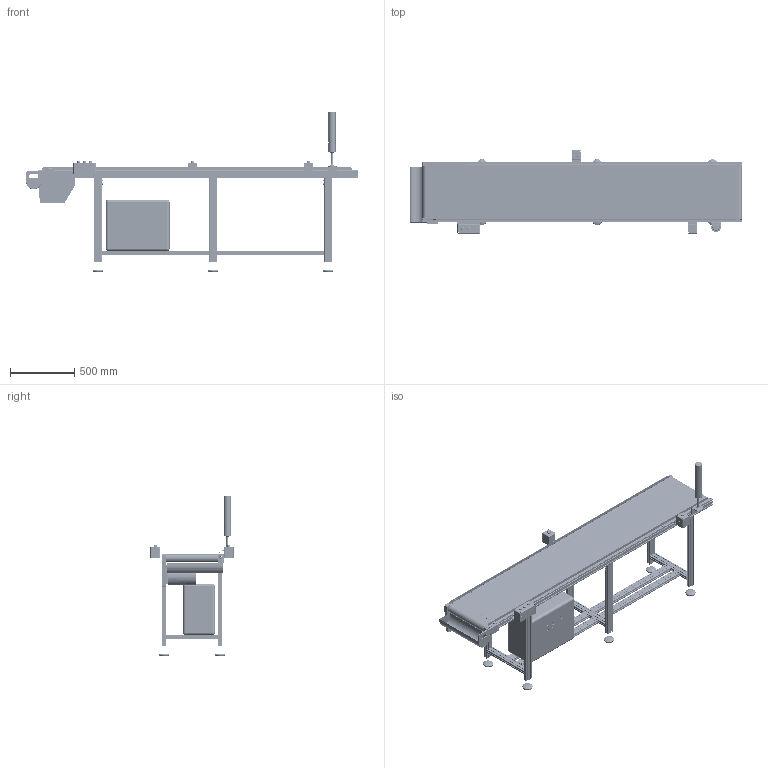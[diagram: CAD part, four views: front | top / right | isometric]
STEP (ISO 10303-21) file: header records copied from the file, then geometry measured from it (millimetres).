
FILE_DESCRIPTION(/* description */ (''),/* implementation_level */ '2;1');
FILE_NAME(/* name */ 'beltconveyor_a052_w400_l2500.stp',/* time_stamp */ '2024-12-22T17:50:04+08:00',/* author */ (''),/* organization */ (''),/* preprocessor_version */ 'ST-DEVELOPER v16.7',/* originating_system */ 'SIEMENS PLM Software NX 12.0',/* authorisation */ '');
FILE_SCHEMA (('AUTOMOTIVE_DESIGN { 1 0 10303 214 3 1 1 1 }'));
Products named in the file (53): L=2500皮带托板一; L=2500边框型材一; L=2500皮带托板二; L=2500六角螺母M6_GB_FASTENER_NUT_SNC1 M
6-C; L=2500平垫圈d6_GB_FASTENER_WASHER_SMWC 6; L=2500边框型材二; L=25002.21.08.M6; L=2500内六角圆柱头螺栓M6X10_GB_FASTENER_SCREW
S_HSHCS M6X10-C; L=25001.11.30.030060.06.L1380; L=25001.11.30.030060.06.L305; L=25005.32.30.3060; L=25001.11.30.030060.06.L610; L=25005.21.80.12.130; L=25003.21.30.6060.STA; L=25003.21.30.3030.STA; L=25003.21.30.3060.STA; L=2500托辊轴; L=2500深沟球62800_Rolling bearings 61900 
GB 276-94; L=2500内六角顶丝M8X10_GB_FASTENER_SCREWS_HSFP M8X10
-C; L=2500轴用挡圈d10_GB_CONNECTING_PIECE_R
ING_RRA 9; L=2500固定块; L=2500孔用挡圈D19_GB_CONNECTING_PIECE_R
ING_RRH 19; L=2500托辊筒; L=2500皮带; L=2500内六角圆柱头螺栓M6X20_GB_FASTENER_SCREW
S_HSHCS M6X20-C; L=2500电机; L=25002100链轮罩; L=2500端板; L=25002.51.12.06; L=2500电机连接板; 废料箱堵板; 废料箱端板; 废料槽; 尾部部挡板2L=1000; 头部挡板L=1420; 三孔按钮盒支架; TYX1S按钮盒75x75x85; 废料箱扣件; 按钮盒175x75x85; 电控箱 ...
Assembly tree (155 placements, depth 4):
  beltconveyor_a052_w400_l2500
    单孔按钮盒支架  x2
    头部非标挡板L=1420
    尾部部挡板1L=1000
    对射传感器
    三色塔灯
    塔灯支架
    对射传感器支架
    电控箱
    按钮盒175x75x85
    废料箱扣件
    废料箱
      废料槽
      废料箱端板
      废料箱堵板
    TYX1S按钮盒75x75x85  x2
    三孔按钮盒支架
    装配体1^L=2500装配图
      L=2500电机连接板
      L=25002.51.12.06  x4
      L=2500端板  x3
      L=25002100链轮罩
      L=2500托辊单元  x2
        L=2500托辊筒
        L=2500孔用挡圈D19_GB_CONNECTING_PIECE_R
ING_RRH 19
        L=2500固定块
        L=2500轴用挡圈d10_GB_CONNECTING_PIECE_R
ING_RRA 9
        L=2500内六角顶丝M8X10_GB_FASTENER_SCREWS_HSFP M8X10
-C
        L=2500深沟球62800_Rolling bearings 61900 
GB 276-94
        L=2500托辊轴
      L=2500电机
      L=2500支腿单元
        L=25003.21.30.3060.STA  x12
        L=25003.21.30.3030.STA  x8
        L=25003.21.30.6060.STA  x6
        L=25005.21.80.12.130  x6
        L=25001.11.30.030060.06.L610  x6
        L=25005.32.30.3060  x6
        L=25001.11.30.030060.06.L305  x3
        L=25001.11.30.030060.06.L1380  x4
      L=2500内六角圆柱头螺栓M6X20_GB_FASTENER_SCREW
S_HSHCS M6X20-C  x4
      L=2500框架
        L=2500内六角圆柱头螺栓M6X10_GB_FASTENER_SCREW
S_HSHCS M6X10-C  x14
        L=25002.21.08.M6  x12
        L=2500边框型材二
        L=2500平垫圈d6_GB_FASTENER_WASHER_SMWC 6  x16
        L=2500六角螺母M6_GB_FASTENER_NUT_SNC1 M
6-C  x2
        L=2500皮带托板二
        L=2500边框型材一
        L=2500皮带托板一
      L=2500皮带
    头部挡板L=1420
    尾部部挡板2L=1000
Bounding box: 2593.48 x 649 x 1257 mm (x, y, z)
Volume: 69449537.6 mm3; surface area: 16462235.5 mm2
Topology: 284 solids, 284 shells, 8667 faces, 22869 edges, 14646 vertices
Faces by surface type: plane 3703, cylinder 3024, cone 720, torus 604, extrusion 369, sphere 164, bspline 83
Full cylindrical faces by diameter (mm): 5.5 x4, 16 x1, 19 x6, 20 x4, 25 x2, 55 x3, 56 x4, 73 x6, 76 x1
Entity records: 120590 total; most frequent: CARTESIAN_POINT 32291, ORIENTED_EDGE 18102, DIRECTION 16678, EDGE_CURVE 9051, VERTEX_POINT 5874, AXIS2_PLACEMENT_3D 5747, VECTOR 5184, LINE 4815
